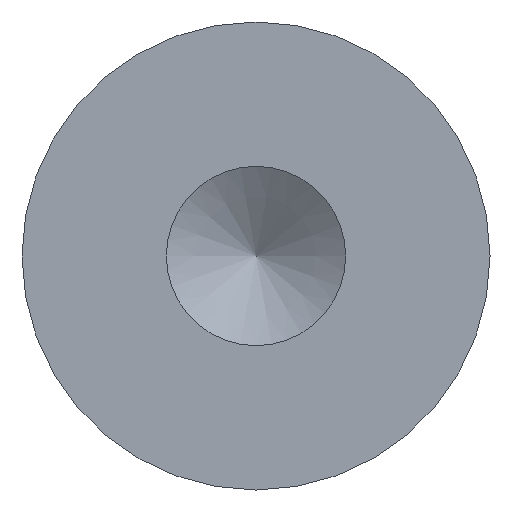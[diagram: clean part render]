
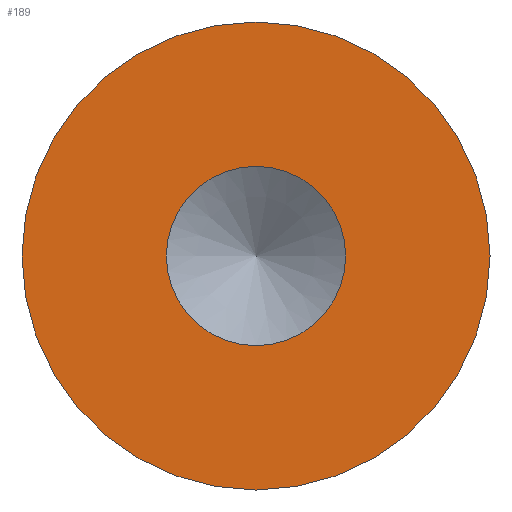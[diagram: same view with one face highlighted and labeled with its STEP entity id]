
A CAD part, front view. The second image highlights one B-rep face of the part: STEP entity #189.
In plain terms, the highlighted planar face has unit normal (0, -1, 0).
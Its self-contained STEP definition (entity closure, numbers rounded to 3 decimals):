
#15=FACE_BOUND('',#42,.T.);
#17=PLANE('',#237);
#31=FACE_OUTER_BOUND('',#41,.T.);
#41=EDGE_LOOP('',(#171));
#42=EDGE_LOOP('',(#172,#173));
#69=CIRCLE('',#222,3.);
#76=CIRCLE('',#233,1.15);
#77=CIRCLE('',#234,1.15);
#87=VERTEX_POINT('',#327);
#96=VERTEX_POINT('',#351);
#97=VERTEX_POINT('',#352);
#110=EDGE_CURVE('',#87,#87,#69,.T.);
#120=EDGE_CURVE('',#96,#97,#76,.T.);
#121=EDGE_CURVE('',#97,#96,#77,.T.);
#171=ORIENTED_EDGE('',*,*,#110,.T.);
#172=ORIENTED_EDGE('',*,*,#120,.T.);
#173=ORIENTED_EDGE('',*,*,#121,.T.);
#189=ADVANCED_FACE('',(#31,#15),#17,.F.);
#222=AXIS2_PLACEMENT_3D('',#329,#266,#267);
#233=AXIS2_PLACEMENT_3D('',#353,#291,#292);
#234=AXIS2_PLACEMENT_3D('',#354,#293,#294);
#237=AXIS2_PLACEMENT_3D('',#360,#301,#302);
#266=DIRECTION('center_axis',(0.,-1.,0.));
#267=DIRECTION('ref_axis',(1.,0.,0.));
#291=DIRECTION('center_axis',(0.,1.,0.));
#292=DIRECTION('ref_axis',(1.,0.,0.));
#293=DIRECTION('center_axis',(0.,1.,0.));
#294=DIRECTION('ref_axis',(1.,0.,0.));
#301=DIRECTION('center_axis',(0.,1.,0.));
#302=DIRECTION('ref_axis',(0.,0.,1.));
#327=CARTESIAN_POINT('',(-3.,0.,0.));
#329=CARTESIAN_POINT('Origin',(0.,0.,0.));
#351=CARTESIAN_POINT('',(1.15,0.,0.));
#352=CARTESIAN_POINT('',(-1.15,0.,0.));
#353=CARTESIAN_POINT('Origin',(0.,0.,0.));
#354=CARTESIAN_POINT('Origin',(0.,0.,0.));
#360=CARTESIAN_POINT('Origin',(0.,0.,0.));
